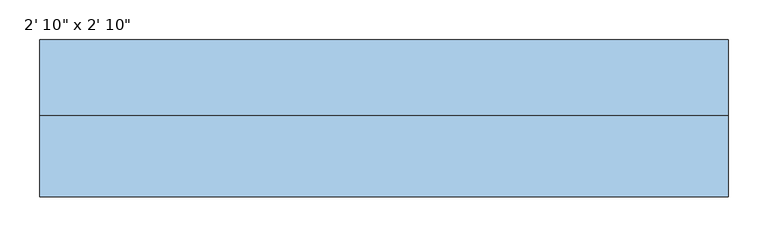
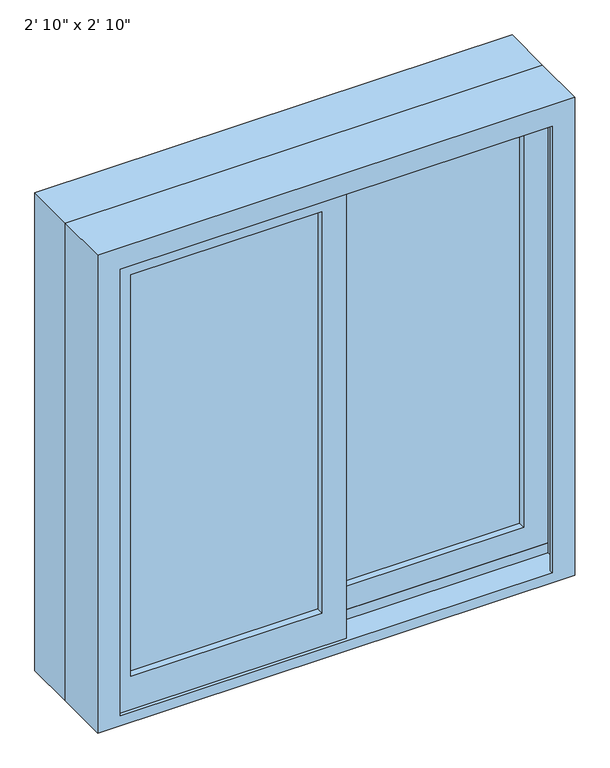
"""IFC4 building model written with IfcOpenShell, lengths in millimetres: window geometry."""

from ifc_helpers import new_model, si_unit, frame, origin, place, context, project, spatial, polyline, outline, extrude, faceted_brep, source, transform, mapped, element, save


def window_eecfb043(model_context):
    return source(origin(), model_context, "Body", "SolidModel", [
        extrude(outline(polyline([(933.45, 22.225), (1809.75, 22.225), (1809.75, -412.75), (933.45, -412.75), (933.45, 22.225)]), holes=[polyline([(1765.3, -368.3), (1765.3, -22.225), (996.95, -22.225), (996.95, -368.3), (1765.3, -368.3)])]), frame((0.0, -97.79, 0.0), z_axis=(0.0, 1.0, 0.0), x_axis=(0.0, 0.0, 1.0)), (0.0, 0.0, 1.0), 44.45),
        extrude(outline(polyline([(952.5, -22.225), (952.5, 412.75), (1809.75, 412.75), (1809.75, -22.225), (952.5, -22.225)]), holes=[polyline([(996.95, 368.3), (996.95, 22.225), (1765.3, 22.225), (1765.3, 368.3), (996.95, 368.3)])]), frame((0.0, -53.34, 0.0), z_axis=(0.0, 1.0, 0.0), x_axis=(0.0, 0.0, 1.0)), (0.0, 0.0, 1.0), 44.45),
        faceted_brep([(-431.8, -2.54, 914.4), (431.8, -2.54, 914.4), (431.8, -104.14, 914.4), (-431.8, -104.14, 914.4), (-390.8778905, -104.14, 1787.8778905), (-390.8778905, -104.14, 933.45), (-390.8778905, -97.79, 933.45), (-390.8778905, -97.79, 1787.8778905), (-412.75, -97.79, 933.45), (-412.75, -97.79, 1809.75), (412.75, -97.79, 1809.75), (412.75, -97.79, 933.45), (390.8778905, -97.79, 933.45), (390.8778905, -97.79, 1787.8778905), (-412.75, -53.34, 933.45), (-412.75, -53.34, 952.5), (-412.75, -8.89, 952.5), (-412.75, -8.89, 933.45), (-412.75, -2.54, 933.45), (-412.75, -2.54, 1809.75), (-431.8, -2.54, 1828.8), (431.8, -2.54, 1828.8), (412.75, -2.54, 1809.75), (412.75, -2.54, 933.45), (-431.8, -104.14, 1828.8), (431.8, -104.14, 1828.8), (390.8778905, -104.14, 1787.8778905), (390.8778905, -104.14, 933.45), (412.75, -8.89, 933.45), (412.75, -8.89, 952.5), (412.75, -53.34, 952.5), (412.75, -53.34, 933.45)], [[[0, 1, 2, 3]], [[4, 5, 6, 7]], [[7, 6, 8, 9, 10, 11, 12, 13]], [[9, 8, 14, 15, 16, 17, 18, 19]], [[0, 20, 21, 1], [22, 19, 18, 23]], [[24, 20, 0, 3]], [[2, 25, 24, 3], [4, 26, 27, 5]], [[7, 13, 26, 4]], [[9, 19, 22, 10]], [[20, 24, 25, 21]], [[13, 12, 27, 26]], [[22, 23, 28, 29, 30, 31, 11, 10]], [[21, 25, 2, 1]], [[27, 12, 11, 31, 14, 8, 6, 5]], [[31, 30, 15, 14]], [[30, 29, 16, 15]], [[29, 28, 17, 16]], [[18, 17, 28, 23]]]),
        extrude(outline(polyline([(1828.8, 431.8), (1828.8, -431.8), (914.4, -431.8), (914.4, 431.8), (1828.8, 431.8)]), holes=[polyline([(1809.75, -412.75), (1809.75, 412.75), (933.45, 412.75), (933.45, -412.75), (1809.75, -412.75)])]), frame((0.0, -2.54, 0.0), z_axis=(0.0, 1.0, 0.0), x_axis=(0.0, 0.0, 1.0)), (0.0, 0.0, 1.0), 95.25),
        extrude(outline(polyline([(368.3, -40.64), (22.225, -40.64), (22.225, -34.29), (368.3, -34.29), (368.3, -40.64)])), frame((0.0, 0.0, 996.95), z_axis=(0.0, 0.0, 1.0), x_axis=(1.0, 0.0, 0.0)), (0.0, 0.0, 1.0), 768.35),
        extrude(outline(polyline([(368.3, -27.94), (22.225, -27.94), (22.225, -21.59), (368.3, -21.59), (368.3, -27.94)])), frame((0.0, 0.0, 996.95), z_axis=(0.0, 0.0, 1.0), x_axis=(1.0, 0.0, 0.0)), (0.0, 0.0, 1.0), 768.35),
        extrude(outline(polyline([(-22.225, -85.09), (-368.3, -85.09), (-368.3, -78.74), (-22.225, -78.74), (-22.225, -85.09)])), frame((0.0, 0.0, 996.95), z_axis=(0.0, 0.0, 1.0), x_axis=(1.0, 0.0, 0.0)), (0.0, 0.0, 1.0), 768.35),
        extrude(outline(polyline([(-22.225, -72.39), (-368.3, -72.39), (-368.3, -66.04), (-22.225, -66.04), (-22.225, -72.39)])), frame((0.0, 0.0, 996.95), z_axis=(0.0, 0.0, 1.0), x_axis=(1.0, 0.0, 0.0)), (0.0, 0.0, 1.0), 768.35),
    ])


if __name__ == "__main__":
    model = new_model("IFC4")
    model_context = context("Model", 3, world=origin())
    ifc_project = project(units=[si_unit("LENGTHUNIT", "METRE", prefix="MILLI")], contexts=[model_context])
    site = spatial("IfcSite", under=ifc_project)
    building = spatial("IfcBuilding", under=site)
    placement = place(None, origin())
    window_shape = window_eecfb043(model_context)
    element("IfcWindow", 1, ObjectType="Planitar-Sliding-Double : 2' 10\" x 2' 10\"", at=placement, inside=building, context=model_context, shape_type="MappedRepresentation", body=[
        mapped(window_shape, transform((0.0, 0.0, 0.0), x_axis=(1.0, 0.0, 0.0), y_axis=(0.0, 1.0, 0.0), z_axis=(0.0, 0.0, 1.0))),
    ])
    save(model, "model.ifc")
